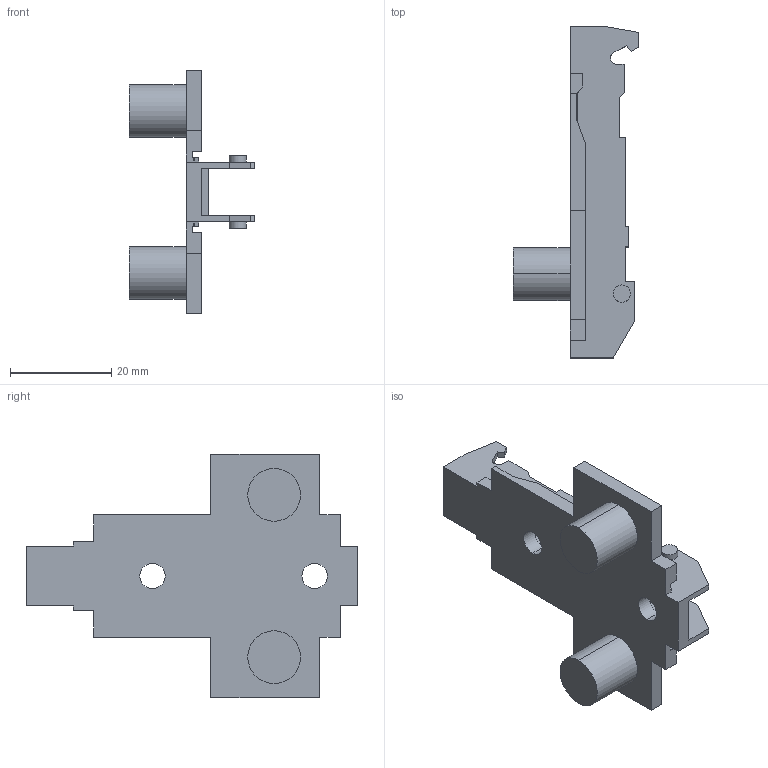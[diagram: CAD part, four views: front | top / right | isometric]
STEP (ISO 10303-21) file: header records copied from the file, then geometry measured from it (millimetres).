
FILE_DESCRIPTION (( 'STEP AP214' ), '1' );
FILE_NAME ('1D_Kreuzmontageplatte 28_32_10mm_Dübel_3.step', '2010-11-18T10:19:03', ( 'grass' ), ( '' ), 'SwSTEP 2.0', 'SolidWorks 2010', '' );
FILE_SCHEMA (( 'AUTOMOTIVE_DESIGN' ));
Length unit declared in the file: millimetre
Products named in the file (1): 1D_Kreuzmontageplatte 28_32_10mm_Dübel_3
Bounding box: 24.7 x 65.5 x 48 mm (x, y, z)
Volume: 8380.6 mm3; surface area: 7704.7 mm2
Topology: 1 solids, 1 shells, 112 faces, 308 edges, 204 vertices
Faces by surface type: plane 86, cylinder 22, cone 4
Entity records: 3570 total; most frequent: CARTESIAN_POINT 625, ORIENTED_EDGE 616, DIRECTION 582, EDGE_CURVE 308, VECTOR 260, LINE 260, VERTEX_POINT 204, AXIS2_PLACEMENT_3D 161
